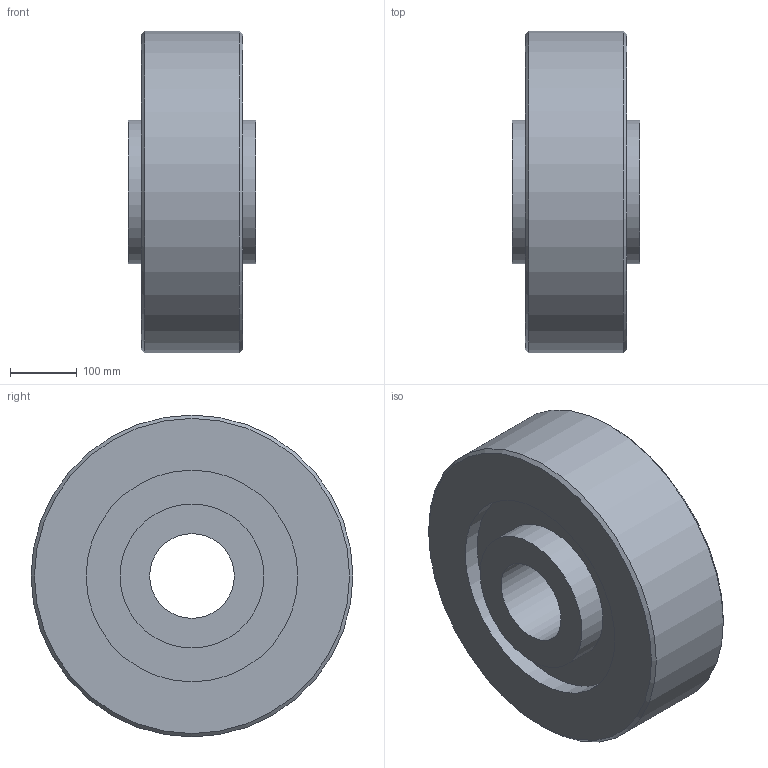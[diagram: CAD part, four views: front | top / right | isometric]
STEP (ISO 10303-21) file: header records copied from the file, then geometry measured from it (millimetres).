
FILE_DESCRIPTION((''),'1');
FILE_NAME('H:/図庫/国内ﾕﾆｯﾄ/ｶﾀﾛｸﾞ/ｸﾘｰﾌﾟﾌﾘｰ/ホームページ用ＣＡＤ図面/3D/update用', '2017-07-12T07:56:13',(''), (''), 'KCM Version 1.1.1442.0', 'Kubotek KeyCreator', '');
FILE_SCHEMA(('AUTOMOTIVE_DESIGN'));
Length unit declared in the file: inch
Bounding box: 190.5 x 482.6 x 482.6 mm (x, y, z)
Surface area: 749450.5 mm2 (no closed solid volume)
Topology: 0 solids, 14 shells, 14 faces, 36 edges, 28 vertices
Faces by surface type: cylinder 6, plane 6, cone 2
Full cylindrical faces by diameter (mm): 127 x1, 215.9 x2, 317.5 x2, 482.6 x1
Entity records: 482 total; most frequent: DIRECTION 94, CARTESIAN_POINT 79, ORIENTED_EDGE 44, AXIS2_PLACEMENT_3D 43, EDGE_CURVE 36, VERTEX_POINT 28, CIRCLE 28, EDGE_LOOP 20
